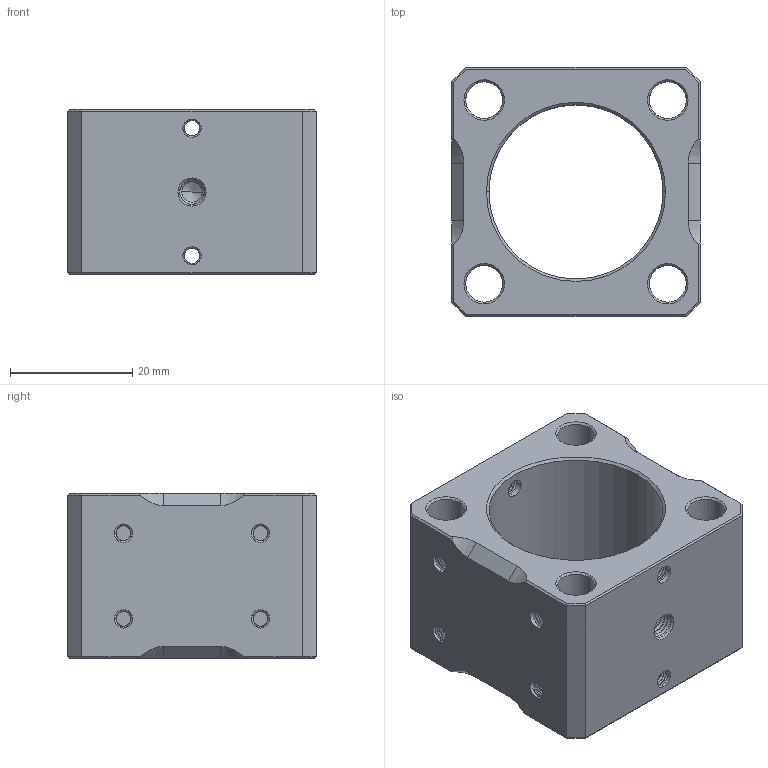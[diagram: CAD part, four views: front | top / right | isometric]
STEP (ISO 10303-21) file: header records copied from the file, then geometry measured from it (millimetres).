
FILE_DESCRIPTION((''),'2;1');
FILE_NAME('TTN192795-1','2021-01-19T',('Administrator'),(''),'CREO PARAMETRIC BY PTC INC, 2017300','CREO PARAMETRIC BY PTC INC, 2017300','');
FILE_SCHEMA(('CONFIG_CONTROL_DESIGN'));
Products named in the file (1): TTN192795-1
Bounding box: 40.64 x 40.64 x 27 mm (x, y, z)
Volume: 23289.2 mm3; surface area: 11408.5 mm2
Topology: 1 solids, 2 shells, 611 faces, 1748 edges, 1129 vertices
Faces by surface type: cylinder 302, bspline 224, plane 51, cone 34
Entity records: 55799 total; most frequent: CARTESIAN_POINT 42664, ORIENTED_EDGE 3482, EDGE_CURVE 1744, DIRECTION 1472, B_SPLINE_CURVE_WITH_KNOTS 1150, VERTEX_POINT 1129, EDGE_LOOP 654, FACE_OUTER_BOUND 611
